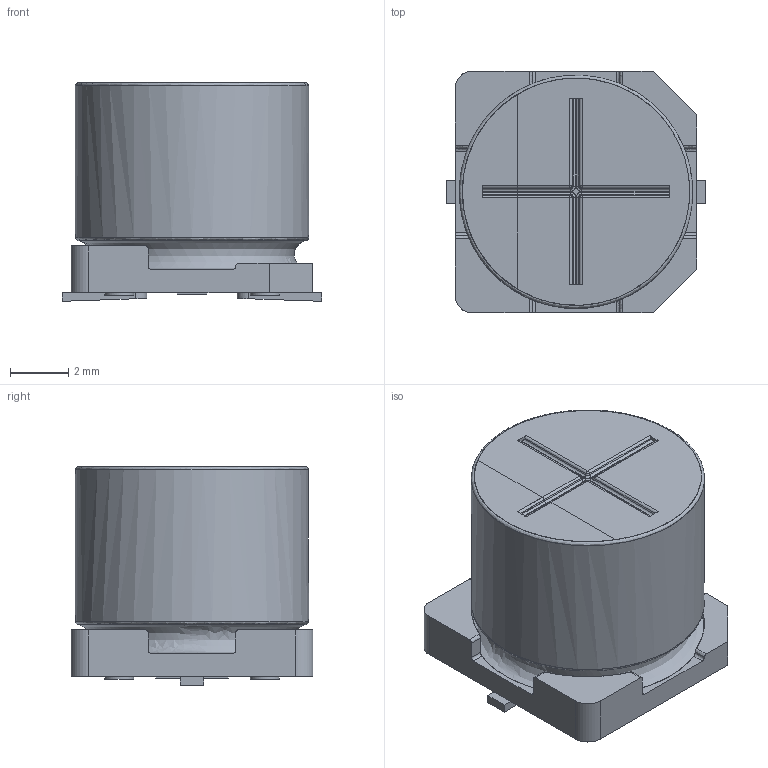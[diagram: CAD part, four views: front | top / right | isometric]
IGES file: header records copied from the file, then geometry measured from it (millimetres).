
Start section: JAMA-IS VERSION  1.0
Bounding box: 8.9 x 8.3 x 7.5 mm (x, y, z)
Surface area: 480.8 mm2 (no closed solid volume)
Topology: 0 solids, 0 shells, 132 faces, 1288 edges, 1270 vertices
Faces by surface type: bspline 132
